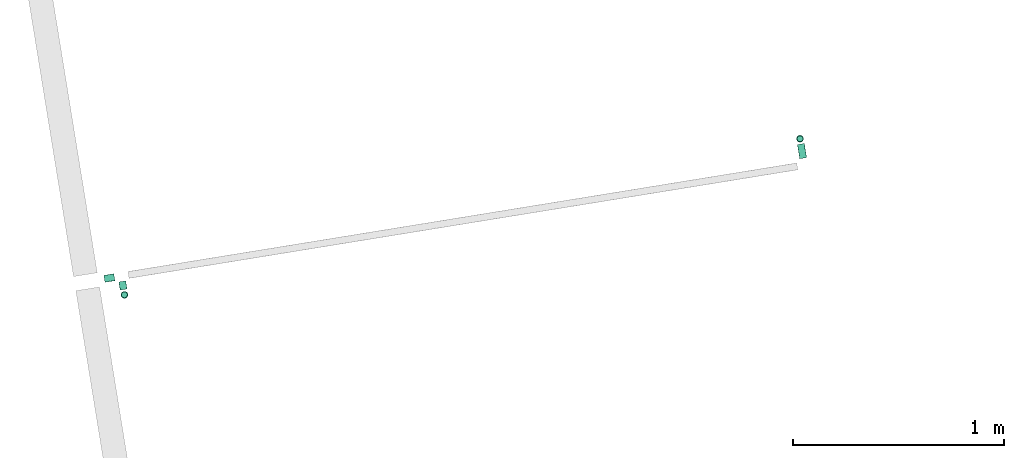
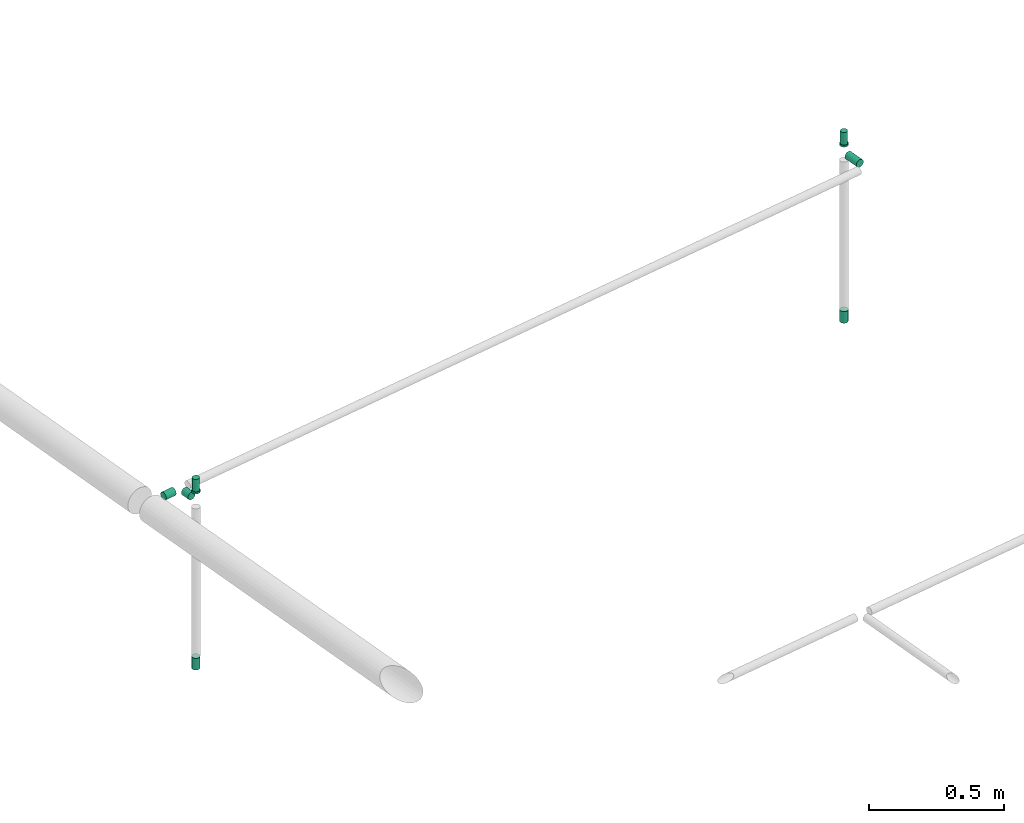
# One storey, part 9 of 11: 5 flow segments, 4 flow terminals.
"""IFC2X3 building model written with IfcOpenShell, lengths in millimetres."""

import ifcopenshell
import ifcopenshell.guid

model = None  # the IFC model being written
_history = None  # IfcOwnerHistory: only IFC2X3 demands one
_inside = {}  # id of a spatial element -> (the spatial element, [elements in it])
_under = {}  # id of a project, library or spatial element -> (it, [spatial elements below it])
_declared = {}  # id of a project -> (the project, [libraries it declares])
_typed = {}  # id of a type object -> (the type object, [elements of that type])
_made_of = {}  # id of a material, layer set ... -> (it, [elements and type objects made of it])


def new_model(schema):
    """Start an empty IFC model of exactly this schema.

    Asked for "IFC4X3", IfcOpenShell would pick the latest addendum, in which some entities
    have other attributes; the version numbers below select the first issue.
    IFC2X3 requires an IfcOwnerHistory on every rooted entity: one is made here for all.
    """
    global model, _history
    if schema == "IFC4X3":
        model = ifcopenshell.file(schema_version=(4, 3, 0, 0))
    else:
        model = ifcopenshell.file(schema=schema)
    _inside.clear()
    _under.clear()
    _declared.clear()
    _typed.clear()
    _made_of.clear()
    _history = None
    if model.schema == "IFC2X3":
        org = make("IfcOrganization", Name="unknown")
        user = make(
            "IfcPersonAndOrganization",
            ThePerson=make("IfcPerson", FamilyName="unknown"),
            TheOrganization=org,
        )
        app = make(
            "IfcApplication",
            ApplicationDeveloper=org,
            Version="unknown",
            ApplicationFullName="unknown",
            ApplicationIdentifier="unknown",
        )
        _history = make(
            "IfcOwnerHistory",
            OwningUser=user,
            OwningApplication=app,
            ChangeAction="ADDED",
            CreationDate=0,
        )
    return model


def make(cls, **values):
    """One entity of the class cls with the attributes given. An attribute that is None is left unset."""
    return model.create_entity(
        cls, **{name: value for name, value in values.items() if value is not None}
    )


def entity(cls, *values):
    """Any entity or typed value of the class cls, its attributes in the order of the schema. None: left unset."""
    e = model.create_entity(cls)
    for i, value in enumerate(values):
        if value is not None:
            e[i] = value
    return e


def rooted(cls, **values):
    """An entity with a GlobalId (a new one), such as an element, a storey or a relation."""
    return make(cls, GlobalId=ifcopenshell.guid.new(), OwnerHistory=_history, **values)


def si_unit(unit_type, name, prefix=None):
    """IfcSIUnit, for example si_unit("LENGTHUNIT", "METRE", prefix="MILLI")."""
    return make("IfcSIUnit", UnitType=unit_type, Prefix=prefix, Name=name)


def converted_unit(unit_type, name, factor, base, dimensions=None, offset=None):
    """IfcConversionBasedUnit, such as the inch: factor (a typed value) times the base unit."""
    return make(
        "IfcConversionBasedUnit"
        if offset is None
        else "IfcConversionBasedUnitWithOffset",
        ConversionOffset=offset,
        Dimensions=None
        if dimensions is None
        else entity("IfcDimensionalExponents", *dimensions),
        UnitType=unit_type,
        Name=name,
        ConversionFactor=make(
            "IfcMeasureWithUnit", ValueComponent=factor, UnitComponent=base
        ),
    )


def derived_unit(unit_type, elements):
    """IfcDerivedUnit: a product of units, each with its exponent."""
    return make(
        "IfcDerivedUnit",
        Elements=[
            make("IfcDerivedUnitElement", Unit=unit, Exponent=power)
            for unit, power in elements
        ],
        UnitType=unit_type,
    )


def assignment(units):
    """IfcUnitAssignment: the units of a project."""
    return None if units is None else make("IfcUnitAssignment", Units=units)


def point(xyz):
    """IfcCartesianPoint."""
    return None if xyz is None else make("IfcCartesianPoint", Coordinates=xyz)


def direction(xyz):
    """IfcDirection."""
    return None if xyz is None else make("IfcDirection", DirectionRatios=xyz)


def frame(location, z_axis=None, x_axis=None):
    """IfcAxis2Placement3D, a coordinate frame: its origin and axes. An axis left out is left unset."""
    return make(
        "IfcAxis2Placement3D",
        Location=point(location),
        Axis=direction(z_axis),
        RefDirection=direction(x_axis),
    )


def frame_2d(location, x_axis=None):
    """IfcAxis2Placement2D, a coordinate frame in the plane: its origin and x axis."""
    return make(
        "IfcAxis2Placement2D", Location=point(location), RefDirection=direction(x_axis)
    )


def origin():
    """The frame at (0, 0, 0) with its axes left unset."""
    return frame((0.0, 0.0, 0.0))


def origin_with_axes():
    """The frame at (0, 0, 0) with the z axis (0, 0, 1) and the x axis (1, 0, 0) written out."""
    return frame((0.0, 0.0, 0.0), z_axis=(0.0, 0.0, 1.0), x_axis=(1.0, 0.0, 0.0))


def origin_2d_with_axis():
    """The frame at (0, 0) in the plane with the x axis (1, 0) written out."""
    return frame_2d((0.0, 0.0), x_axis=(1.0, 0.0))


def place(relative_to, where):
    """IfcLocalPlacement: puts the frame where relative to a parent placement (None: the world)."""
    return make(
        "IfcLocalPlacement", PlacementRelTo=relative_to, RelativePlacement=where
    )


def context(
    kind, dimensions, precision=None, world=None, true_north=None, identifier=None
):
    """IfcGeometricRepresentationContext, for example the 3D "Model" context."""
    return make(
        "IfcGeometricRepresentationContext",
        ContextIdentifier=identifier,
        ContextType=kind,
        CoordinateSpaceDimension=dimensions,
        Precision=precision,
        WorldCoordinateSystem=world,
        TrueNorth=true_north,
    )


def subcontext(parent, identifier, kind, view, scale=None):
    """IfcGeometricRepresentationSubContext, for example "Body" below "Model"."""
    return make(
        "IfcGeometricRepresentationSubContext",
        ContextIdentifier=identifier,
        ContextType=kind,
        ParentContext=parent,
        TargetScale=scale,
        TargetView=view,
    )


def project(units=None, contexts=None):
    """IfcProject with its units and contexts."""
    return rooted(
        "IfcProject",
        Name="project",
        RepresentationContexts=contexts,
        UnitsInContext=assignment(units),
    )


def spatial(cls, under=None, at=None, **own):
    """A site, building, storey or space (cls), placed at a placement, below another one or the project."""
    s = rooted(cls, ObjectPlacement=at, **own)
    if under is not None:
        _under.setdefault(under.id(), (under, []))[1].append(s)
    return s


def profile(cls, at=None, kind="AREA", **sizes):
    """A parametric profile (cls). Its sizes go by their IFC names, for example OverallWidth=200.0."""
    return make(cls, ProfileType=kind, Position=at, **sizes)


def circle(**sizes):
    """IfcCircleProfileDef."""
    return profile("IfcCircleProfileDef", **sizes)


def extrude(swept, where, along, depth):
    """IfcExtrudedAreaSolid: the profile swept, set in the frame where, extruded along a direction by depth."""
    return make(
        "IfcExtrudedAreaSolid",
        SweptArea=swept,
        Position=where,
        ExtrudedDirection=direction(along),
        Depth=depth,
    )


def shape(context_of_items, identifier, shape_type, items):
    """IfcShapeRepresentation: the items that make up one representation, for example the "Body"."""
    return make(
        "IfcShapeRepresentation",
        ContextOfItems=context_of_items,
        RepresentationIdentifier=identifier,
        RepresentationType=shape_type,
        Items=items,
    )


def source(mapping_origin, context_of_items, identifier, shape_type, items):
    """IfcRepresentationMap: a shape defined once, which mapped items show again and again."""
    return make(
        "IfcRepresentationMap",
        MappingOrigin=mapping_origin,
        MappedRepresentation=shape(context_of_items, identifier, shape_type, items),
    )


def transform(
    local_origin,
    x_axis=None,
    y_axis=None,
    z_axis=None,
    scale=None,
    scale2=None,
    scale3=None,
    uniform=True,
):
    """IfcCartesianTransformationOperator3D, or its non-uniform kind. x_axis, y_axis, z_axis: its Axis1, 2, 3."""
    if uniform:
        return make(
            "IfcCartesianTransformationOperator3D",
            Axis1=direction(x_axis),
            Axis2=direction(y_axis),
            LocalOrigin=point(local_origin),
            Scale=scale,
            Axis3=direction(z_axis),
        )
    return make(
        "IfcCartesianTransformationOperator3DnonUniform",
        Axis1=direction(x_axis),
        Axis2=direction(y_axis),
        LocalOrigin=point(local_origin),
        Scale=scale,
        Axis3=direction(z_axis),
        Scale2=scale2,
        Scale3=scale3,
    )


def mapped(mapping_source, mapping_target):
    """IfcMappedItem: shows the shape of a source again, moved by a transform."""
    return make(
        "IfcMappedItem", MappingSource=mapping_source, MappingTarget=mapping_target
    )


def material(Name=None, Category=None):
    """IfcMaterial."""
    return make("IfcMaterial", Name=Name, Category=Category)


def made_of(thing, what):
    """Note that an element or type object is made of a material, layer set ...; save() writes the relation."""
    if what is not None:
        _made_of.setdefault(what.id(), (what, []))[1].append(thing)
    return thing


def type_object(cls, material=None, **own):
    """A type object (cls), such as IfcWallType, which elements share."""
    return made_of(rooted(cls, **own), material)


def element(
    cls,
    number,
    at=None,
    inside=None,
    cuts=None,
    type_object=None,
    material=None,
    context=None,
    identifier="Body",
    shape_type=None,
    held_by="IfcProductDefinitionShape",
    body=None,
    shapes=None,
    **own,
):
    """One element of the class cls, such as IfcWall. Its Tag is "e" and its number.

    at: its placement. inside: the storey or other place that contains it. cuts: it is an
    opening in that element (IfcRelVoidsElement). A single representation is given by context,
    identifier, shape_type and body (its items); several are given by shapes. held_by: the class
    of the entity that holds the representations. save() writes the other relations.
    """
    e = rooted(cls, Tag="e%d" % number, ObjectPlacement=at, **own)
    if body is not None:
        shapes = [shape(context, identifier, shape_type, body)]
    if shapes is not None:
        e.Representation = make(held_by, Representations=shapes)
    if inside is not None:
        _inside.setdefault(inside.id(), (inside, []))[1].append(e)
    if cuts is not None:
        rooted(
            "IfcRelVoidsElement", RelatingBuildingElement=cuts, RelatedOpeningElement=e
        )
    if type_object is not None:
        _typed.setdefault(type_object.id(), (type_object, []))[1].append(e)
    return made_of(e, material)


def aggregate(whole, parts):
    """IfcRelAggregates: a whole, such as a stair, and the parts it consists of."""
    return rooted("IfcRelAggregates", RelatingObject=whole, RelatedObjects=parts)


def save(model, path):
    """Write the relations noted so far, then the file.

    IfcRelAggregates (storeys below a building ...), IfcRelContainedInSpatialStructure (elements
    in a storey), IfcRelDefinesByType, IfcRelAssociatesMaterial and IfcRelDeclares: one each for
    every whole, place, type object, material and project.
    """
    for whole, parts in _under.values():
        aggregate(whole, parts)
    for where, things in _inside.values():
        rooted(
            "IfcRelContainedInSpatialStructure",
            RelatedElements=things,
            RelatingStructure=where,
        )
    for kind, things in _typed.values():
        rooted("IfcRelDefinesByType", RelatedObjects=things, RelatingType=kind)
    for what, things in _made_of.values():
        rooted("IfcRelAssociatesMaterial", RelatedObjects=things, RelatingMaterial=what)
    for by, libraries in _declared.values():
        rooted("IfcRelDeclares", RelatingContext=by, RelatedDefinitions=libraries)
    model.write(path)


model = new_model("IFC2X3")

# Units and contexts
model_context = context("Model", 3, precision=0.01, world=origin(), true_north=direction((6.12323399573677e-17, 1.0)))
plan_context = context("Plan", 3, precision=1e-05, world=origin_with_axes())
body_context = subcontext(model_context, "Body", "Model", "MODEL_VIEW")
ifc_project = project(units=[converted_unit("PLANEANGLEUNIT", "DEGREE", entity("IfcPositiveLengthMeasure", 0.0174532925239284), si_unit("PLANEANGLEUNIT", "RADIAN"), dimensions=[0, 0, 0, 0, 0, 0, 0]), si_unit("AREAUNIT", "SQUARE_METRE"), si_unit("LENGTHUNIT", "METRE", prefix="MILLI"), si_unit("MASSUNIT", "GRAM", prefix="KILO"), si_unit("POWERUNIT", "WATT"), si_unit("PRESSUREUNIT", "PASCAL", prefix="KILO"), si_unit("FORCEUNIT", "NEWTON", prefix="KILO"), si_unit("ELECTRICVOLTAGEUNIT", "VOLT"), si_unit("ELECTRICCURRENTUNIT", "AMPERE"), si_unit("THERMODYNAMICTEMPERATUREUNIT", "DEGREE_CELSIUS"), si_unit("TIMEUNIT", "SECOND"), si_unit("VOLUMEUNIT", "CUBIC_METRE"), derived_unit("LINEARVELOCITYUNIT", [(si_unit("LENGTHUNIT", "METRE"), 1), (si_unit("TIMEUNIT", "SECOND"), -1)]), derived_unit("VOLUMETRICFLOWRATEUNIT", [(si_unit("VOLUMEUNIT", "CUBIC_METRE"), 1), (si_unit("TIMEUNIT", "SECOND"), -1)]), derived_unit("THERMALTRANSMITTANCEUNIT", [(si_unit("POWERUNIT", "WATT"), 1), (si_unit("THERMODYNAMICTEMPERATUREUNIT", "KELVIN"), -1), (si_unit("AREAUNIT", "SQUARE_METRE"), -1)]), derived_unit("SOUNDPRESSUREUNIT", [(si_unit("PRESSUREUNIT", "PASCAL"), 1)])], contexts=[model_context, plan_context])

# Site, building, storey
site_placement = place(None, frame((-0.00071070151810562, 0.00438415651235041, 0.0), z_axis=(0.0, 0.0, 1.0), x_axis=(-0.160236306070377, 0.987078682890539, 0.0)))
site = spatial("IfcSite", under=ifc_project, at=site_placement, Name="Default", CompositionType="ELEMENT")
building_placement = place(site_placement, origin_with_axes())
building = spatial("IfcBuilding", under=site, at=building_placement, CompositionType="ELEMENT")
storey_placement = place(building_placement, frame((0.0, 0.0, 50999.9999999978), z_axis=(0.0, 0.0, 1.0), x_axis=(1.0, 0.0, 0.0)))
storey = spatial("IfcBuildingStorey", under=building, at=storey_placement, Name="Nivå D", CompositionType="ELEMENT", Elevation=50999.9999999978)

# Flow terminals
ifc_material = material(Name="<Unnamed>")
fire_suppression_terminal_type_1 = type_object("IfcFireSuppressionTerminalType", Name="UZ003T:Dyse/Spreder - UZ003T", PredefinedType="NOTDEFINED", material=ifc_material)
shared_shape_1 = source(origin(), body_context, "Body", "SweptSolid", [
    extrude(circle(Radius=16.0, at=frame_2d((0.0, -2.58487131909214e-14), x_axis=(1.0, 0.0))), origin(), (0.0, 0.0, 1.0), 53.0),
])
for number, where, z_axis, x_axis in (
    (1, (778302.619619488, -589807.48181812, 2700.0), (0.0, 0.0, -1.0), (-1.0, 0.0, 0.0)),
    (2, (778520.244461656, -593091.967080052, 2700.0), (0.0, 0.0, -1.0), (-1.0, 0.0, 0.0)),
):
    element("IfcFlowTerminal", number, at=place(storey_placement, frame(where, z_axis=z_axis, x_axis=x_axis)), inside=storey, type_object=fire_suppression_terminal_type_1, material=ifc_material, Name="UZ003T:Dyse/Spreder - UZ003T", ObjectType="UZ003T:Dyse/Spreder - UZ003T", context=body_context, shape_type="MappedRepresentation", body=[
        mapped(shared_shape_1, transform((0.0, 0.0, 0.0), scale=1.0)),
    ])
fire_suppression_terminal_type_2 = type_object("IfcFireSuppressionTerminalType", Name="UZ002T:Dyse/Spreder - UZ002T", PredefinedType="NOTDEFINED", material=ifc_material)
shared_shape_2 = source(origin(), body_context, "Body", "SweptSolid", [
    extrude(circle(Radius=14.0, at=frame_2d((0.0, -2.26176240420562e-14), x_axis=(1.0, 0.0))), origin(), (0.0, 0.0, 1.0), 58.9999999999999),
])
for number, where, z_axis, x_axis in (
    (3, (778302.619644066, -589807.48173883, 3451.0000000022), (0.0, 0.0, 1.0), (1.0, 0.0, 0.0)),
    (4, (778520.244486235, -593091.967000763, 3451.0000000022), (0.0, 0.0, 1.0), (1.0, 0.0, 0.0)),
):
    element("IfcFlowTerminal", number, at=place(storey_placement, frame(where, z_axis=z_axis, x_axis=x_axis)), inside=storey, type_object=fire_suppression_terminal_type_2, material=ifc_material, Name="UZ002T:Dyse/Spreder - UZ002T", ObjectType="UZ002T:Dyse/Spreder - UZ002T", context=body_context, shape_type="MappedRepresentation", body=[
        mapped(shared_shape_2, transform((0.0, 0.0, 0.0), scale=1.0)),
    ])

# Flow segments
pipe_segment_type = type_object("IfcPipeSegmentType", Name="Pipe Types:Stålrør normaltykke", PredefinedType="NOTDEFINED")
flow_segment_1_placement = place(storey_placement, origin_with_axes())
element("IfcFlowSegment", 5, at=flow_segment_1_placement, inside=storey, type_object=pipe_segment_type, Name="Pipe Types:Stålrør normaltykke", ObjectType="Pipe Types:Stålrør normaltykke", context=body_context, shape_type="SweptSolid", body=[
    extrude(circle(Radius=16.8500004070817, at=frame_2d((0.0, 6.93033381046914e-11), x_axis=(1.0, 0.0))), frame((778302.61964381, -589807.464117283, 3445.80010236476), z_axis=(0.0, -0.00213648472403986, 0.999997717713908), x_axis=(-1.0, 0.0, 0.0)), (0.0, 0.0, 1.0), 8.24791646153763),
])
flow_segment_2_placement = place(storey_placement, origin_with_axes())
element("IfcFlowSegment", 6, at=flow_segment_2_placement, inside=storey, type_object=pipe_segment_type, Name="Pipe Types:Stålrør normaltykke", ObjectType="Pipe Types:Stålrør normaltykke", context=body_context, shape_type="SweptSolid", body=[
    extrude(circle(Radius=16.8500004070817, at=origin_2d_with_axis()), frame((778520.244485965, -593091.967059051, 3445.80009758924), z_axis=(0.0, 7.06700683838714e-06, 1.0), x_axis=(-1.0, 0.0, 0.0)), (0.0, 0.0, 1.0), 8.24790241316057),
])
flow_segment_3_placement = place(storey_placement, origin_with_axes())
element("IfcFlowSegment", 7, at=flow_segment_3_placement, inside=storey, type_object=pipe_segment_type, Name="Pipe Types:Stålrør normaltykke", ObjectType="Pipe Types:Stålrør normaltykke", context=body_context, shape_type="SweptSolid", body=[
    extrude(circle(Radius=16.8500004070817, at=origin_2d_with_axis()), frame((778392.86126993, -589773.664172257, 3412.00010024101), z_axis=(0.0, 1.0, 0.0), x_axis=(-1.0, 0.0, 0.0)), (0.0, 0.0, 1.0), 47.8824334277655),
])
flow_segment_4_placement = place(storey_placement, origin_with_axes())
element("IfcFlowSegment", 8, at=flow_segment_4_placement, inside=storey, type_object=pipe_segment_type, Name="Pipe Types:Stålrør normaltykke", ObjectType="Pipe Types:Stålrør normaltykke", context=body_context, shape_type="SweptSolid", body=[
    extrude(circle(Radius=16.8500004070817, at=origin_2d_with_axis()), frame((778327.969642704, -589807.464140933, 3412.00010153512), z_axis=(1.0, -7.92172615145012e-07, 0.0), x_axis=(-7.92172615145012e-07, -1.0, 0.0)), (0.0, 0.0, 1.0), 39.5416272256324),
])
flow_segment_5_placement = place(storey_placement, origin_with_axes())
element("IfcFlowSegment", 9, at=flow_segment_5_placement, inside=storey, type_object=pipe_segment_type, Name="Pipe Types:Stålrør normaltykke", ObjectType="Pipe Types:Stålrør normaltykke", context=body_context, shape_type="SweptSolid", body=[
    extrude(circle(Radius=16.8500004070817, at=frame_2d((0.0, -8.66293703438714e-12), x_axis=(1.0, 0.0))), frame((778426.661275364, -593091.967000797, 3412.00009841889), z_axis=(1.0, -6.60614178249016e-07, 0.0), x_axis=(6.60614178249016e-07, 1.0, 0.0)), (0.0, 0.0, 1.0), 68.2332094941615),
])

save(model, "model.ifc")
